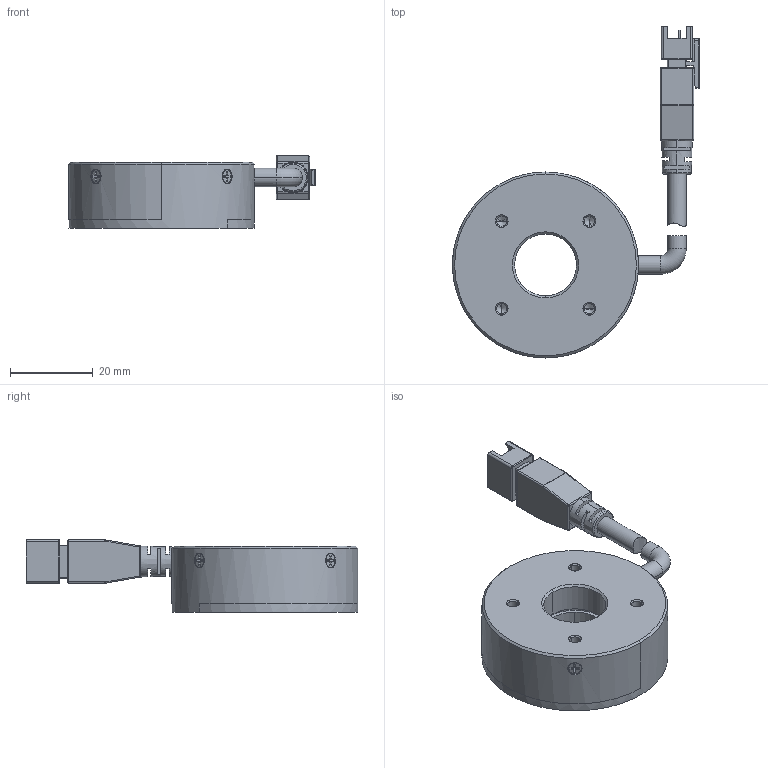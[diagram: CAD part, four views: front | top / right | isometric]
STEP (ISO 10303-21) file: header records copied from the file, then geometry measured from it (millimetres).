
FILE_DESCRIPTION((''),'2;1');
FILE_NAME('45-60','2024-01-29T21:05:19',('qiaoxuan5'),(''),'CREO PARAMETRIC BY PTC INC, 2020044','CREO PARAMETRIC BY PTC INC, 2020044','');
FILE_SCHEMA(('CONFIG_CONTROL_DESIGN'));
Length unit declared in the file: millimetre
Products named in the file (1): 45-60
Bounding box: 59.75 x 80.3 x 17.5 mm (x, y, z)
Volume: 20396.4 mm3; surface area: 13030.8 mm2
Topology: 2 solids, 26 shells, 550 faces, 1379 edges, 856 vertices
Faces by surface type: plane 274, cylinder 177, cone 64, torus 18, sphere 8, bspline 8, extrusion 1
Entity records: 18024 total; most frequent: CARTESIAN_POINT 4899, DIRECTION 2769, ORIENTED_EDGE 2630, EDGE_CURVE 1355, AXIS2_PLACEMENT_3D 985, VERTEX_POINT 856, VECTOR 799, LINE 798
